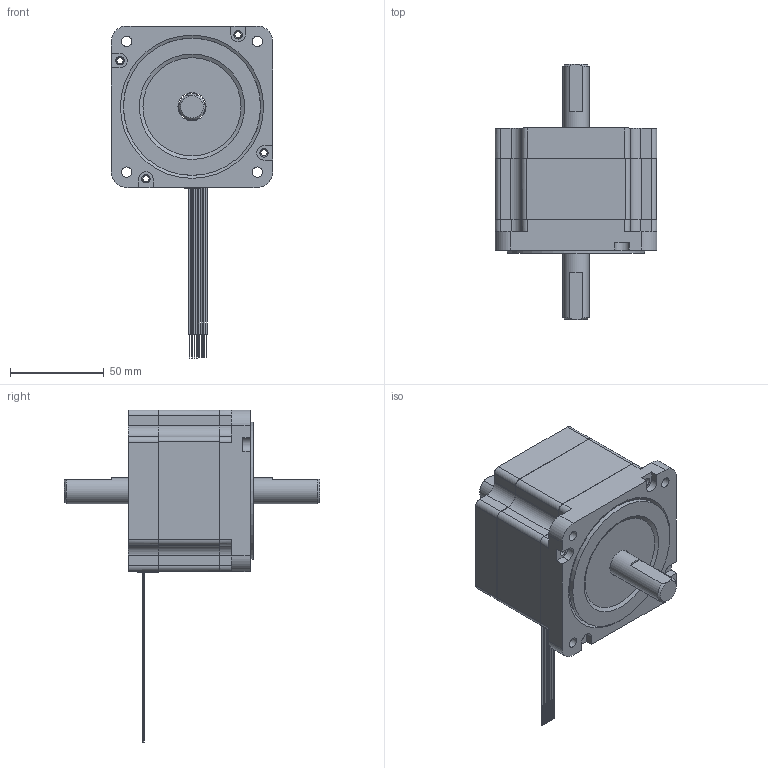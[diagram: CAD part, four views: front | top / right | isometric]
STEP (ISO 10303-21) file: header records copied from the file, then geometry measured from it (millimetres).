
FILE_DESCRIPTION( ('This file contains a STEP AP42 implementation' ,'as created by ZW3D STEP Interface translator.' ,'') ,'2;1' );
FILE_NAME( '34H2060-30-4B-XXX.stp' ,'26 115.135723', (''), ('ZWCAD Software Co.'), 'Version 1.0', 'ZW3D to STEP translator', '' );
FILE_SCHEMA(('AUTOMOTIVE_DESIGN { 1 0 10303 214 1 1 1 1 }'));
Length unit declared in the file: millimetre
Products named in the file (1): 0
Bounding box: 86 x 136 x 176.75 mm (x, y, z)
Volume: 192375.9 mm3; surface area: 82431.3 mm2
Topology: 7 solids, 7 shells, 308 faces, 754 edges, 495 vertices
Faces by surface type: plane 168, cylinder 135, cone 5
Full cylindrical faces by diameter (mm): 3.3 x4, 4.5 x4, 5.08 x4, 5.5 x4, 14 x2, 15 x2, 36 x1, 42 x2, 52.27 x1, 52.273 x1, 73 x1, 78.679 x1, 80 x2
Entity records: 9520 total; most frequent: DIRECTION 1653, CARTESIAN_POINT 1621, ORIENTED_EDGE 1508, EDGE_CURVE 754, AXIS2_PLACEMENT_3D 615, VERTEX_POINT 495, VECTOR 423, LINE 423
